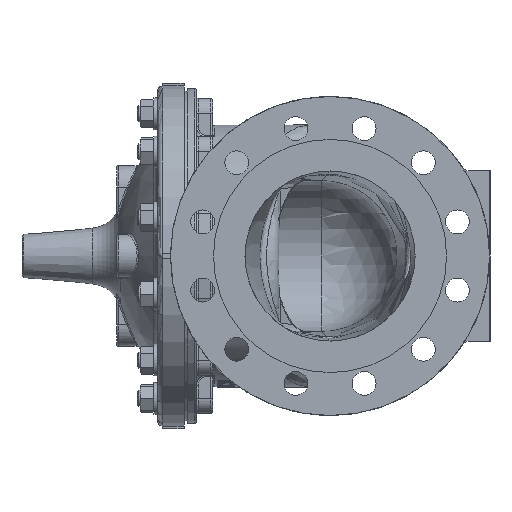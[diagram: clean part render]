
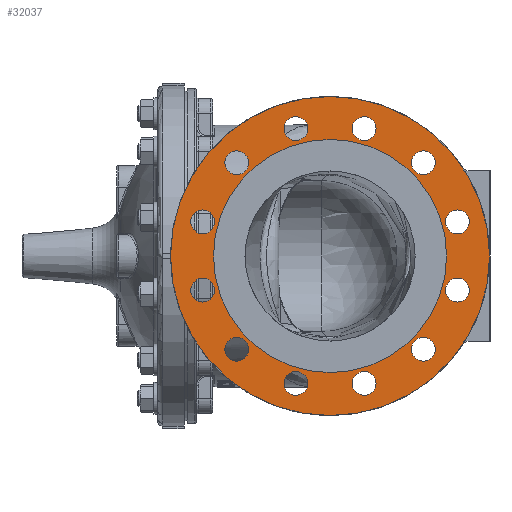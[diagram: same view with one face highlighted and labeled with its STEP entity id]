
A CAD part, left-side view. The second image highlights one B-rep face of the part: STEP entity #32037.
In plain terms, the highlighted planar face has unit normal (-1, 0, 0).
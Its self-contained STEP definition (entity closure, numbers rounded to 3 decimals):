
#6240=FACE_BOUND('',#8502,.T.);
#6241=FACE_BOUND('',#8503,.T.);
#6242=FACE_BOUND('',#8504,.T.);
#6243=FACE_BOUND('',#8505,.T.);
#6244=FACE_BOUND('',#8506,.T.);
#6245=FACE_BOUND('',#8507,.T.);
#6246=FACE_BOUND('',#8508,.T.);
#6247=FACE_BOUND('',#8509,.T.);
#6248=FACE_BOUND('',#8510,.T.);
#6249=FACE_BOUND('',#8511,.T.);
#6250=FACE_BOUND('',#8512,.T.);
#6251=FACE_BOUND('',#8513,.T.);
#6252=FACE_BOUND('',#8514,.T.);
#6430=FACE_OUTER_BOUND('',#8501,.T.);
#8501=EDGE_LOOP('',(#21163));
#8502=EDGE_LOOP('',(#21164));
#8503=EDGE_LOOP('',(#21165));
#8504=EDGE_LOOP('',(#21166));
#8505=EDGE_LOOP('',(#21167));
#8506=EDGE_LOOP('',(#21168));
#8507=EDGE_LOOP('',(#21169));
#8508=EDGE_LOOP('',(#21170));
#8509=EDGE_LOOP('',(#21171));
#8510=EDGE_LOOP('',(#21172));
#8511=EDGE_LOOP('',(#21173));
#8512=EDGE_LOOP('',(#21174));
#8513=EDGE_LOOP('',(#21175));
#8514=EDGE_LOOP('',(#21176));
#10654=CIRCLE('',#34089,14.);
#10656=CIRCLE('',#34092,14.);
#10658=CIRCLE('',#34095,14.);
#10660=CIRCLE('',#34098,14.);
#10662=CIRCLE('',#34101,14.);
#10664=CIRCLE('',#34104,14.);
#10666=CIRCLE('',#34107,14.);
#10668=CIRCLE('',#34110,14.);
#10670=CIRCLE('',#34113,14.);
#10672=CIRCLE('',#34116,14.);
#10674=CIRCLE('',#34119,14.);
#10676=CIRCLE('',#34122,14.);
#10717=CIRCLE('',#34183,137.);
#10718=CIRCLE('',#34185,187.5);
#12508=VERTEX_POINT('',#46226);
#12510=VERTEX_POINT('',#46232);
#12512=VERTEX_POINT('',#46238);
#12514=VERTEX_POINT('',#46244);
#12516=VERTEX_POINT('',#46250);
#12518=VERTEX_POINT('',#46256);
#12520=VERTEX_POINT('',#46262);
#12522=VERTEX_POINT('',#46268);
#12524=VERTEX_POINT('',#46274);
#12526=VERTEX_POINT('',#46280);
#12528=VERTEX_POINT('',#46286);
#12530=VERTEX_POINT('',#46292);
#12616=VERTEX_POINT('',#46872);
#12617=VERTEX_POINT('',#46876);
#15776=EDGE_CURVE('',#12508,#12508,#10654,.T.);
#15779=EDGE_CURVE('',#12510,#12510,#10656,.T.);
#15782=EDGE_CURVE('',#12512,#12512,#10658,.T.);
#15785=EDGE_CURVE('',#12514,#12514,#10660,.T.);
#15788=EDGE_CURVE('',#12516,#12516,#10662,.T.);
#15791=EDGE_CURVE('',#12518,#12518,#10664,.T.);
#15794=EDGE_CURVE('',#12520,#12520,#10666,.T.);
#15797=EDGE_CURVE('',#12522,#12522,#10668,.T.);
#15800=EDGE_CURVE('',#12524,#12524,#10670,.T.);
#15803=EDGE_CURVE('',#12526,#12526,#10672,.T.);
#15806=EDGE_CURVE('',#12528,#12528,#10674,.T.);
#15809=EDGE_CURVE('',#12530,#12530,#10676,.T.);
#15914=EDGE_CURVE('',#12616,#12616,#10717,.T.);
#15916=EDGE_CURVE('',#12617,#12617,#10718,.T.);
#21163=ORIENTED_EDGE('',*,*,#15916,.F.);
#21164=ORIENTED_EDGE('',*,*,#15776,.T.);
#21165=ORIENTED_EDGE('',*,*,#15779,.T.);
#21166=ORIENTED_EDGE('',*,*,#15782,.T.);
#21167=ORIENTED_EDGE('',*,*,#15785,.T.);
#21168=ORIENTED_EDGE('',*,*,#15788,.T.);
#21169=ORIENTED_EDGE('',*,*,#15791,.T.);
#21170=ORIENTED_EDGE('',*,*,#15794,.T.);
#21171=ORIENTED_EDGE('',*,*,#15797,.T.);
#21172=ORIENTED_EDGE('',*,*,#15800,.T.);
#21173=ORIENTED_EDGE('',*,*,#15803,.T.);
#21174=ORIENTED_EDGE('',*,*,#15806,.T.);
#21175=ORIENTED_EDGE('',*,*,#15809,.T.);
#21176=ORIENTED_EDGE('',*,*,#15914,.F.);
#31286=PLANE('',#34184);
#32037=ADVANCED_FACE('',(#6430,#6240,#6241,#6242,#6243,#6244,#6245,#6246,
#6247,#6248,#6249,#6250,#6251,#6252),#31286,.T.);
#34089=AXIS2_PLACEMENT_3D('',#46227,#37493,#37494);
#34092=AXIS2_PLACEMENT_3D('',#46233,#37500,#37501);
#34095=AXIS2_PLACEMENT_3D('',#46239,#37507,#37508);
#34098=AXIS2_PLACEMENT_3D('',#46245,#37514,#37515);
#34101=AXIS2_PLACEMENT_3D('',#46251,#37521,#37522);
#34104=AXIS2_PLACEMENT_3D('',#46257,#37528,#37529);
#34107=AXIS2_PLACEMENT_3D('',#46263,#37535,#37536);
#34110=AXIS2_PLACEMENT_3D('',#46269,#37542,#37543);
#34113=AXIS2_PLACEMENT_3D('',#46275,#37549,#37550);
#34116=AXIS2_PLACEMENT_3D('',#46281,#37556,#37557);
#34119=AXIS2_PLACEMENT_3D('',#46287,#37563,#37564);
#34122=AXIS2_PLACEMENT_3D('',#46293,#37570,#37571);
#34183=AXIS2_PLACEMENT_3D('',#46873,#37714,#37715);
#34184=AXIS2_PLACEMENT_3D('',#46875,#37717,#37718);
#34185=AXIS2_PLACEMENT_3D('',#46877,#37719,#37720);
#37493=DIRECTION('center_axis',(1.,0.,0.));
#37494=DIRECTION('ref_axis',(0.,0.5,0.866));
#37500=DIRECTION('center_axis',(1.,0.,0.));
#37501=DIRECTION('ref_axis',(0.,0.866,0.5));
#37507=DIRECTION('center_axis',(1.,0.,0.));
#37508=DIRECTION('ref_axis',(0.,1.,0.));
#37514=DIRECTION('center_axis',(1.,0.,0.));
#37515=DIRECTION('ref_axis',(0.,0.866,-0.5));
#37521=DIRECTION('center_axis',(1.,0.,0.));
#37522=DIRECTION('ref_axis',(0.,0.5,-0.866));
#37528=DIRECTION('center_axis',(1.,0.,0.));
#37529=DIRECTION('ref_axis',(0.,0.,
-1.));
#37535=DIRECTION('center_axis',(1.,0.,0.));
#37536=DIRECTION('ref_axis',(0.,-0.5,-0.866));
#37542=DIRECTION('center_axis',(1.,0.,0.));
#37543=DIRECTION('ref_axis',(0.,-0.866,-0.5));
#37549=DIRECTION('center_axis',(1.,0.,0.));
#37550=DIRECTION('ref_axis',(0.,-1.,0.));
#37556=DIRECTION('center_axis',(1.,0.,0.));
#37557=DIRECTION('ref_axis',(0.,-0.866,0.5));
#37563=DIRECTION('center_axis',(1.,0.,0.));
#37564=DIRECTION('ref_axis',(0.,-0.5,0.866));
#37570=DIRECTION('center_axis',(1.,0.,0.));
#37571=DIRECTION('ref_axis',(0.,0.,
1.));
#37714=DIRECTION('center_axis',(-1.,0.,0.));
#37715=DIRECTION('ref_axis',(0.,0.,-1.));
#37717=DIRECTION('center_axis',(-1.,0.,0.));
#37718=DIRECTION('ref_axis',(0.,0.,
1.));
#37719=DIRECTION('center_axis',(1.,0.,0.));
#37720=DIRECTION('ref_axis',(0.,0.,
-1.));
#46226=CARTESIAN_POINT('',(-297.,-228.207,-161.843));
#46227=CARTESIAN_POINT('Origin',(-297.,-221.207,-149.719));
#46232=CARTESIAN_POINT('',(-297.,-302.816,-116.602));
#46233=CARTESIAN_POINT('Origin',(-297.,-290.692,-109.602));
#46238=CARTESIAN_POINT('',(-297.,-344.809,-40.117));
#46239=CARTESIAN_POINT('Origin',(-297.,-330.809,-40.117));
#46244=CARTESIAN_POINT('',(-297.,-342.933,47.117));
#46245=CARTESIAN_POINT('Origin',(-297.,-330.809,40.117));
#46250=CARTESIAN_POINT('',(-297.,-297.692,121.726));
#46251=CARTESIAN_POINT('Origin',(-297.,-290.692,109.602));
#46256=CARTESIAN_POINT('',(-297.,-221.207,163.719));
#46257=CARTESIAN_POINT('Origin',(-297.,-221.207,149.719));
#46262=CARTESIAN_POINT('',(-297.,-133.973,161.843));
#46263=CARTESIAN_POINT('Origin',(-297.,-140.973,149.719));
#46268=CARTESIAN_POINT('',(-297.,-59.364,116.602));
#46269=CARTESIAN_POINT('Origin',(-297.,-71.488,109.602));
#46274=CARTESIAN_POINT('',(-297.,-17.371,40.117));
#46275=CARTESIAN_POINT('Origin',(-297.,-31.371,40.117));
#46280=CARTESIAN_POINT('',(-297.,-19.247,-47.117));
#46281=CARTESIAN_POINT('Origin',(-297.,-31.371,-40.117));
#46286=CARTESIAN_POINT('',(-297.,-64.488,-121.726));
#46287=CARTESIAN_POINT('Origin',(-297.,-71.488,-109.602));
#46292=CARTESIAN_POINT('',(-297.,-140.973,-163.719));
#46293=CARTESIAN_POINT('Origin',(-297.,-140.973,-149.719));
#46872=CARTESIAN_POINT('',(-297.,-181.09,137.));
#46873=CARTESIAN_POINT('Origin',(-297.,-181.09,0.));
#46875=CARTESIAN_POINT('Origin',(-297.,-181.09,0.));
#46876=CARTESIAN_POINT('',(-297.,-181.09,187.5));
#46877=CARTESIAN_POINT('Origin',(-297.,-181.09,0.));
